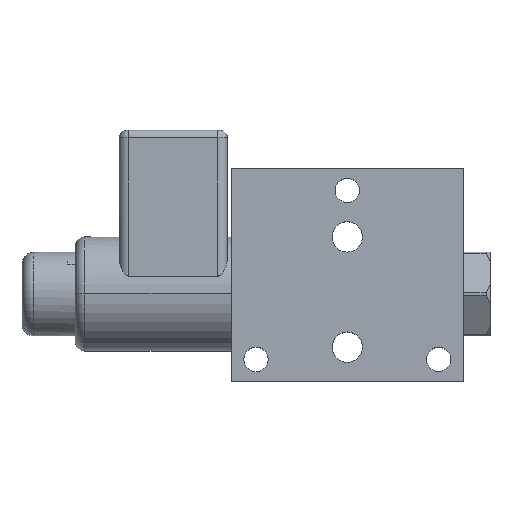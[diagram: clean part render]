
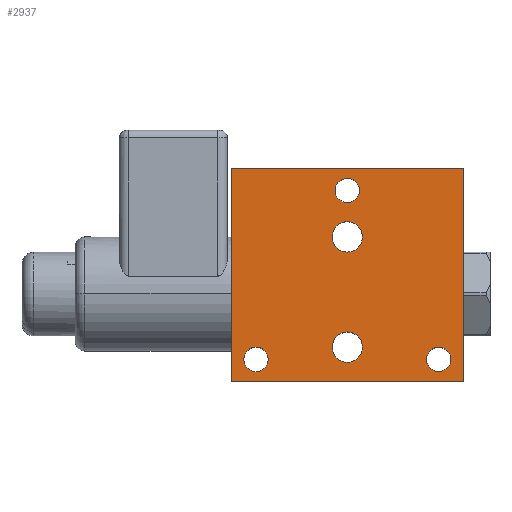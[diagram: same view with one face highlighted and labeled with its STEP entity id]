
A CAD part, top view. The second image highlights one B-rep face of the part: STEP entity #2937.
In plain terms, the highlighted planar face has unit normal (0, 0, 1).
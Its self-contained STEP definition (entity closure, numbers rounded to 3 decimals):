
#209=DIRECTION('',(0.,1.,0.));
#210=VECTOR('',#209,56.);
#211=CARTESIAN_POINT('',(-30.5,-23.,31.));
#212=LINE('',#211,#210);
#213=DIRECTION('',(1.,0.,0.));
#214=VECTOR('',#213,61.);
#215=CARTESIAN_POINT('',(-30.5,33.,31.));
#216=LINE('',#215,#214);
#217=DIRECTION('',(0.,-1.,0.));
#218=VECTOR('',#217,56.);
#219=CARTESIAN_POINT('',(30.5,33.,31.));
#220=LINE('',#219,#218);
#221=DIRECTION('',(-1.,0.,0.));
#222=VECTOR('',#221,61.);
#223=CARTESIAN_POINT('',(30.5,-23.,31.));
#224=LINE('',#223,#222);
#225=CARTESIAN_POINT('',(-24.,-17.2,31.));
#226=DIRECTION('',(0.,0.,1.));
#227=DIRECTION('',(1.,0.,0.));
#228=AXIS2_PLACEMENT_3D('',#225,#226,#227);
#230=CARTESIAN_POINT('',(-24.,-17.2,31.));
#231=DIRECTION('',(0.,0.,1.));
#232=DIRECTION('',(-1.,0.,0.));
#233=AXIS2_PLACEMENT_3D('',#230,#231,#232);
#235=CARTESIAN_POINT('',(24.,-17.2,31.));
#236=DIRECTION('',(0.,0.,1.));
#237=DIRECTION('',(1.,0.,0.));
#238=AXIS2_PLACEMENT_3D('',#235,#236,#237);
#240=CARTESIAN_POINT('',(24.,-17.2,31.));
#241=DIRECTION('',(0.,0.,1.));
#242=DIRECTION('',(-1.,0.,0.));
#243=AXIS2_PLACEMENT_3D('',#240,#241,#242);
#245=CARTESIAN_POINT('',(0.,27.2,31.));
#246=DIRECTION('',(0.,0.,1.));
#247=DIRECTION('',(1.,0.,0.));
#248=AXIS2_PLACEMENT_3D('',#245,#246,#247);
#250=CARTESIAN_POINT('',(0.,27.2,31.));
#251=DIRECTION('',(0.,0.,1.));
#252=DIRECTION('',(-1.,0.,0.));
#253=AXIS2_PLACEMENT_3D('',#250,#251,#252);
#255=CARTESIAN_POINT('',(0.,-14.,31.));
#256=DIRECTION('',(0.,0.,1.));
#257=DIRECTION('',(-1.,0.,0.));
#258=AXIS2_PLACEMENT_3D('',#255,#256,#257);
#260=CARTESIAN_POINT('',(0.,-14.,31.));
#261=DIRECTION('',(0.,0.,1.));
#262=DIRECTION('',(1.,0.,0.));
#263=AXIS2_PLACEMENT_3D('',#260,#261,#262);
#265=CARTESIAN_POINT('',(0.,15.,31.));
#266=DIRECTION('',(0.,0.,1.));
#267=DIRECTION('',(-1.,0.,0.));
#268=AXIS2_PLACEMENT_3D('',#265,#266,#267);
#270=CARTESIAN_POINT('',(0.,15.,31.));
#271=DIRECTION('',(0.,0.,1.));
#272=DIRECTION('',(1.,0.,0.));
#273=AXIS2_PLACEMENT_3D('',#270,#271,#272);
#2105=CARTESIAN_POINT('',(30.5,33.,31.));
#2106=VERTEX_POINT('',#2105);
#2107=CARTESIAN_POINT('',(-30.5,33.,31.));
#2108=VERTEX_POINT('',#2107);
#2285=CARTESIAN_POINT('',(-30.5,-23.,31.));
#2286=VERTEX_POINT('',#2285);
#2291=CARTESIAN_POINT('',(30.5,-23.,31.));
#2292=VERTEX_POINT('',#2291);
#2293=CARTESIAN_POINT('',(-20.8,-17.2,31.));
#2294=CARTESIAN_POINT('',(-27.2,-17.2,31.));
#2295=VERTEX_POINT('',#2293);
#2296=VERTEX_POINT('',#2294);
#2297=CARTESIAN_POINT('',(27.2,-17.2,31.));
#2298=CARTESIAN_POINT('',(20.8,-17.2,31.));
#2299=VERTEX_POINT('',#2297);
#2300=VERTEX_POINT('',#2298);
#2301=CARTESIAN_POINT('',(3.2,27.2,31.));
#2302=CARTESIAN_POINT('',(-3.2,27.2,31.));
#2303=VERTEX_POINT('',#2301);
#2304=VERTEX_POINT('',#2302);
#2305=CARTESIAN_POINT('',(-4.,-14.,31.));
#2306=CARTESIAN_POINT('',(4.,-14.,31.));
#2307=VERTEX_POINT('',#2305);
#2308=VERTEX_POINT('',#2306);
#2309=CARTESIAN_POINT('',(-4.,15.,31.));
#2310=CARTESIAN_POINT('',(4.,15.,31.));
#2311=VERTEX_POINT('',#2309);
#2312=VERTEX_POINT('',#2310);
#2894=CARTESIAN_POINT('',(0.,0.,31.));
#2895=DIRECTION('',(0.,0.,1.));
#2896=DIRECTION('',(1.,0.,0.));
#2897=AXIS2_PLACEMENT_3D('',#2894,#2895,#2896);
#2898=PLANE('',#2897);
#2899=ORIENTED_EDGE('',*,*,#2881,.T.);
#2900=ORIENTED_EDGE('',*,*,#2723,.T.);
#2902=ORIENTED_EDGE('',*,*,#2901,.T.);
#2904=ORIENTED_EDGE('',*,*,#2903,.T.);
#2905=EDGE_LOOP('',(#2899,#2900,#2902,#2904));
#2906=FACE_OUTER_BOUND('',#2905,.F.);
#2908=ORIENTED_EDGE('',*,*,#2907,.T.);
#2910=ORIENTED_EDGE('',*,*,#2909,.T.);
#2911=EDGE_LOOP('',(#2908,#2910));
#2912=FACE_BOUND('',#2911,.F.);
#2914=ORIENTED_EDGE('',*,*,#2913,.T.);
#2916=ORIENTED_EDGE('',*,*,#2915,.T.);
#2917=EDGE_LOOP('',(#2914,#2916));
#2918=FACE_BOUND('',#2917,.F.);
#2920=ORIENTED_EDGE('',*,*,#2919,.T.);
#2922=ORIENTED_EDGE('',*,*,#2921,.T.);
#2923=EDGE_LOOP('',(#2920,#2922));
#2924=FACE_BOUND('',#2923,.F.);
#2926=ORIENTED_EDGE('',*,*,#2925,.T.);
#2928=ORIENTED_EDGE('',*,*,#2927,.T.);
#2929=EDGE_LOOP('',(#2926,#2928));
#2930=FACE_BOUND('',#2929,.F.);
#2932=ORIENTED_EDGE('',*,*,#2931,.T.);
#2934=ORIENTED_EDGE('',*,*,#2933,.T.);
#2935=EDGE_LOOP('',(#2932,#2934));
#2936=FACE_BOUND('',#2935,.F.);
#229=CIRCLE('',#228,3.2);
#234=CIRCLE('',#233,3.2);
#239=CIRCLE('',#238,3.2);
#244=CIRCLE('',#243,3.2);
#249=CIRCLE('',#248,3.2);
#254=CIRCLE('',#253,3.2);
#259=CIRCLE('',#258,4.);
#264=CIRCLE('',#263,4.);
#269=CIRCLE('',#268,4.);
#274=CIRCLE('',#273,4.);
#2723=EDGE_CURVE('',#2108,#2106,#216,.T.);
#2881=EDGE_CURVE('',#2286,#2108,#212,.T.);
#2901=EDGE_CURVE('',#2106,#2292,#220,.T.);
#2903=EDGE_CURVE('',#2292,#2286,#224,.T.);
#2907=EDGE_CURVE('',#2295,#2296,#229,.T.);
#2909=EDGE_CURVE('',#2296,#2295,#234,.T.);
#2913=EDGE_CURVE('',#2299,#2300,#239,.T.);
#2915=EDGE_CURVE('',#2300,#2299,#244,.T.);
#2919=EDGE_CURVE('',#2303,#2304,#249,.T.);
#2921=EDGE_CURVE('',#2304,#2303,#254,.T.);
#2925=EDGE_CURVE('',#2307,#2308,#259,.T.);
#2927=EDGE_CURVE('',#2308,#2307,#264,.T.);
#2931=EDGE_CURVE('',#2311,#2312,#269,.T.);
#2933=EDGE_CURVE('',#2312,#2311,#274,.T.);
#2937=ADVANCED_FACE('',(#2906,#2912,#2918,#2924,#2930,#2936),#2898,.T.);
